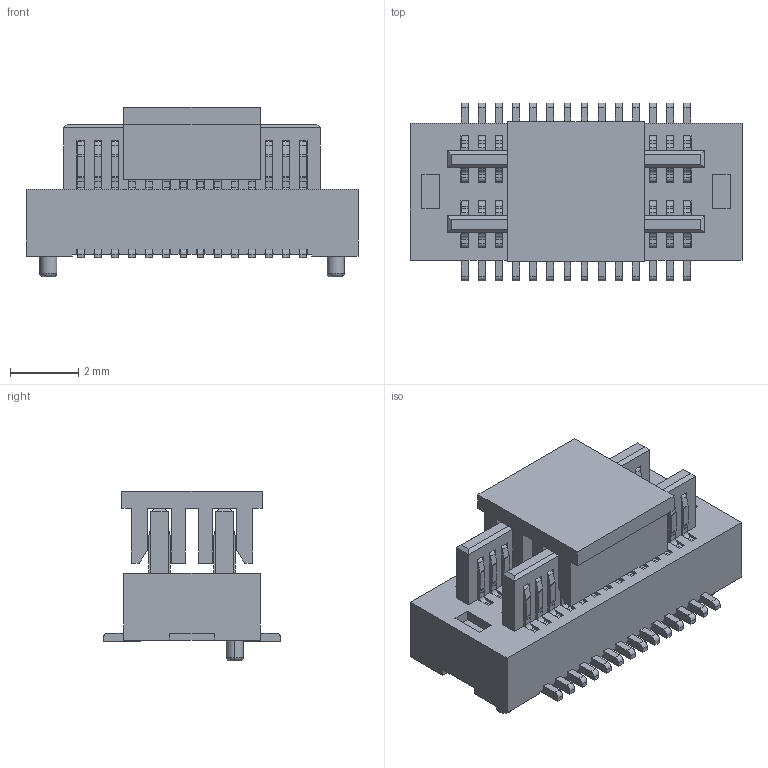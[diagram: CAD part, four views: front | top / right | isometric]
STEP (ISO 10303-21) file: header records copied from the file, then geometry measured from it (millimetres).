
FILE_DESCRIPTION(('CATIA V5 STEP Exchange'),'2;1');
FILE_NAME('F:\黄富鸿\板对板\PBB05\公座\H2.0\编带+盖\HC-PBB05-2-28-M-H2.0-G1-R-P-04（BTB0.5 双槽 公座 立贴 带柱 编带+盖）-HCTL.stp','2025-12-18T03:03:22+00:00',('none'),('none'),'CATIA Version 5 Release 20 GA (IN-10)','CATIA V5 STEP AP203','none');
FILE_SCHEMA(('CONFIG_CONTROL_DESIGN'));
Length unit declared in the file: millimetre
Products named in the file (1): Part2
Bounding box: 9.7 x 5.2 x 4.95 mm (x, y, z)
Volume: 106.7 mm3; surface area: 734.9 mm2
Topology: 30 solids, 30 shells, 1648 faces, 5014 edges, 3320 vertices
Faces by surface type: plane 1080, cylinder 564, torus 4
Entity records: 48459 total; most frequent: ORIENTED_EDGE 10028, CARTESIAN_POINT 8980, DIRECTION 5520, EDGE_CURVE 5014, VECTOR 3766, LINE 3766, VERTEX_POINT 3320, EDGE_LOOP 1654
